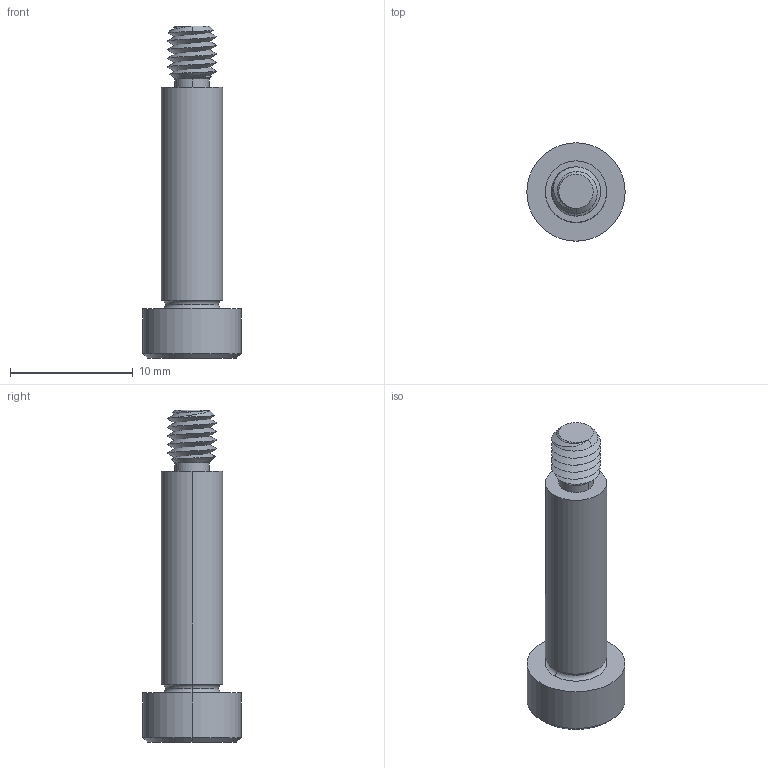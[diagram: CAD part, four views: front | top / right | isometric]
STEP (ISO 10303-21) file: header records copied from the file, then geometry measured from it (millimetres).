
FILE_DESCRIPTION (( 'STEP AP203' ), '1' );
FILE_NAME ('P0130.050-018-B2.step', '2021-11-09T21:15:24', ( '' ), ( '' ), 'SwSTEP 2.0', 'SolidWorks 2019', '' );
FILE_SCHEMA (( 'CONFIG_CONTROL_DESIGN' ));
Length unit declared in the file: millimetre
Products named in the file (1): P0130.050-018-B2
Bounding box: 8 x 8 x 27 mm (x, y, z)
Volume: 577.7 mm3; surface area: 598.2 mm2
Topology: 1 solids, 1 shells, 53 faces, 121 edges, 71 vertices
Faces by surface type: cylinder 16, plane 16, cone 15, torus 4, bspline 2
Entity records: 2151 total; most frequent: CARTESIAN_POINT 968, ORIENTED_EDGE 238, DIRECTION 226, EDGE_CURVE 119, AXIS2_PLACEMENT_3D 92, VERTEX_POINT 71, EDGE_LOOP 56, ADVANCED_FACE 53
